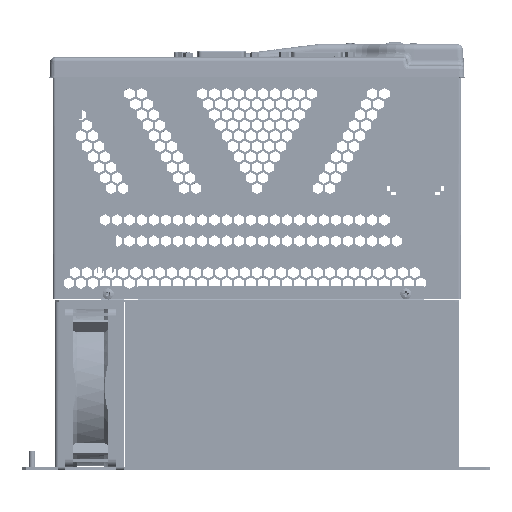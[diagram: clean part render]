
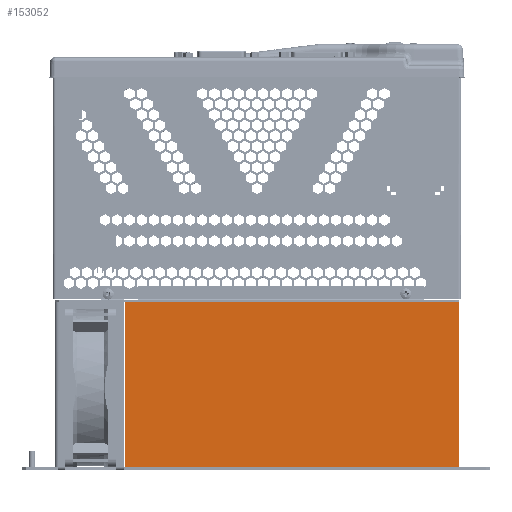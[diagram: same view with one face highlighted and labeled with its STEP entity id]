
A CAD part, top view. The second image highlights one B-rep face of the part: STEP entity #153052.
In plain terms, the highlighted planar face has unit normal (0, 0, 1).
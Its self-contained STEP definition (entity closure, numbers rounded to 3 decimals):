
#67958=PLANE('',#338250);
#79296=FACE_OUTER_BOUND('',#174300,.T.);
#93616=LINE('',#426441,#123640);
#93818=LINE('',#426898,#123842);
#95174=LINE('',#431025,#125198);
#95175=LINE('',#431027,#125199);
#123640=VECTOR('',#359283,1.);
#123842=VECTOR('',#359539,1.);
#125198=VECTOR('',#364393,1.);
#125199=VECTOR('',#364396,1.);
#153052=ADVANCED_FACE('NONE',(#79296),#67958,.T.);
#174300=EDGE_LOOP('',(#201726,#201727,#201728,#201729));
#201726=ORIENTED_EDGE('',*,*,#295779,.F.);
#201727=ORIENTED_EDGE('',*,*,#298080,.F.);
#201728=ORIENTED_EDGE('',*,*,#296007,.T.);
#201729=ORIENTED_EDGE('',*,*,#298081,.T.);
#269044=VERTEX_POINT('',#426440);
#269045=VERTEX_POINT('',#426442);
#269272=VERTEX_POINT('',#426897);
#269273=VERTEX_POINT('',#426899);
#295779=EDGE_CURVE('NONE',#269044,#269045,#93616,.T.);
#296007=EDGE_CURVE('NONE',#269273,#269272,#93818,.T.);
#298080=EDGE_CURVE('NONE',#269273,#269044,#95174,.T.);
#298081=EDGE_CURVE('NONE',#269272,#269045,#95175,.T.);
#338250=AXIS2_PLACEMENT_3D('',#431028,#364397,#364398);
#359283=DIRECTION('',(0.,-1.,0.));
#359539=DIRECTION('',(0.,-1.,0.));
#364393=DIRECTION('',(1.,0.,0.));
#364396=DIRECTION('',(1.,0.,0.));
#364397=DIRECTION('',(0.,0.,1.));
#364398=DIRECTION('',(1.,0.,0.));
#426440=CARTESIAN_POINT('',(101.5,-1.,40.));
#426441=CARTESIAN_POINT('',(101.5,-92.404,40.));
#426442=CARTESIAN_POINT('',(101.5,-84.,40.));
#426897=CARTESIAN_POINT('',(-66.5,-84.,40.));
#426898=CARTESIAN_POINT('',(-66.5,-92.404,40.));
#426899=CARTESIAN_POINT('',(-66.5,-1.,40.));
#431025=CARTESIAN_POINT('',(-66.5,-1.,40.));
#431027=CARTESIAN_POINT('',(-66.5,-84.,40.));
#431028=CARTESIAN_POINT('',(-66.5,-92.404,40.));
